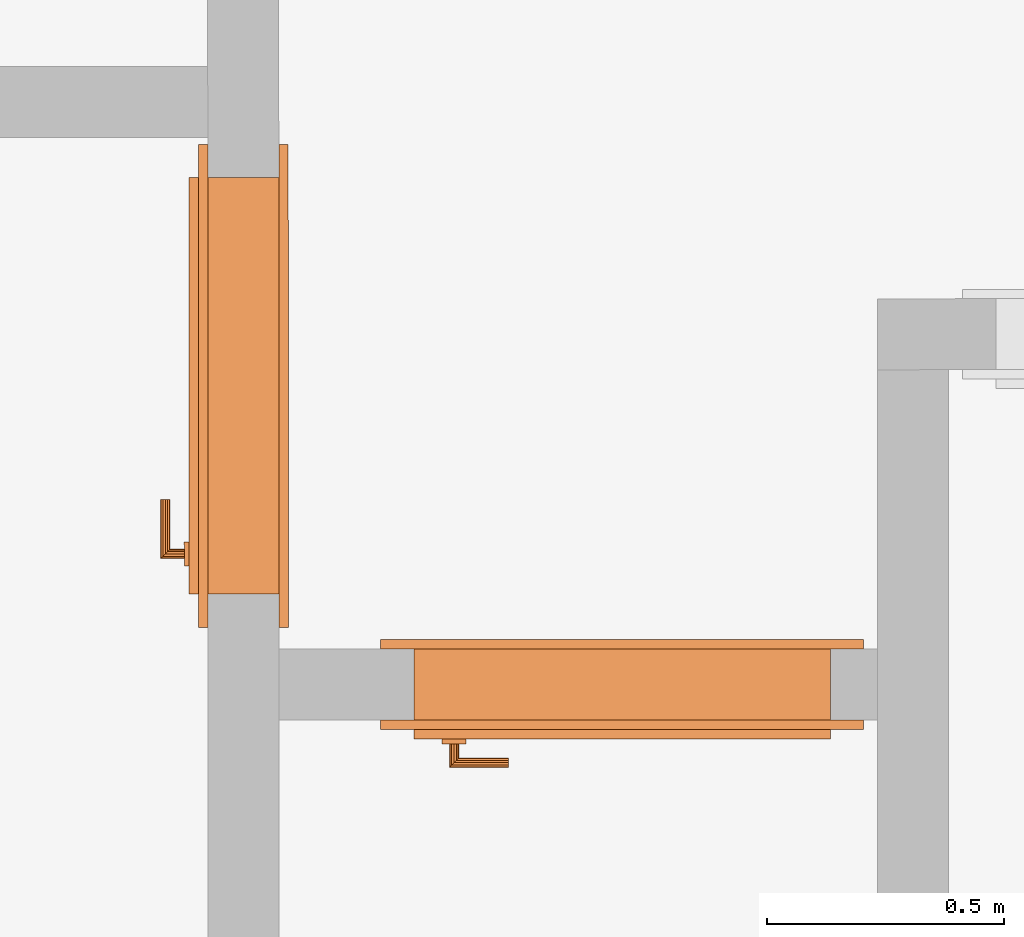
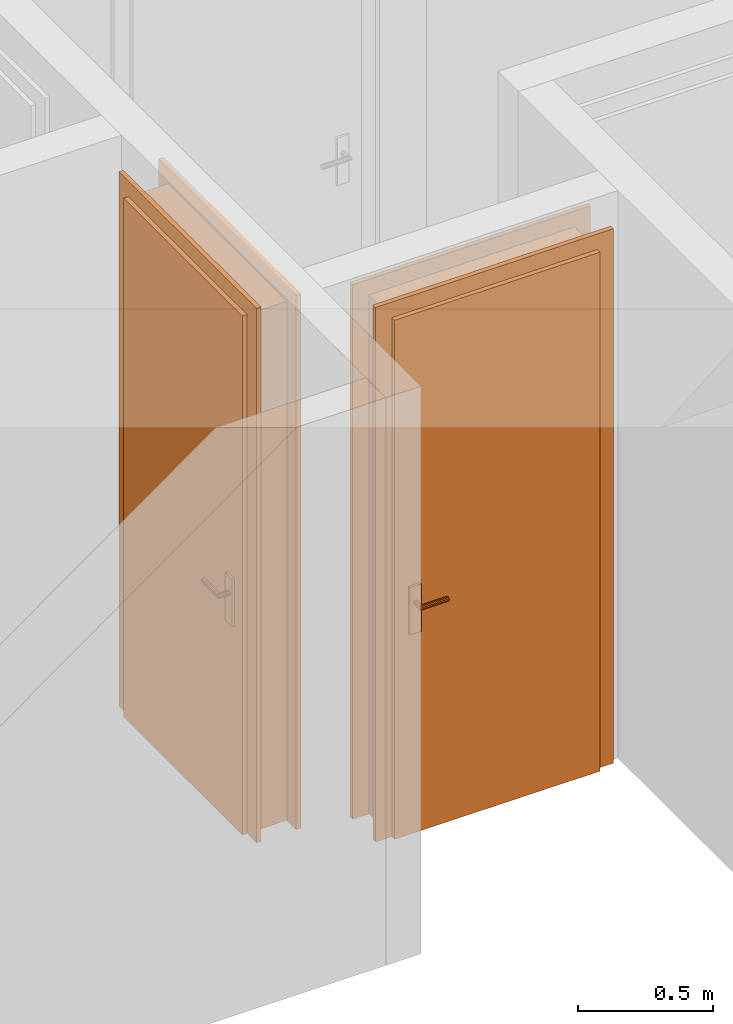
# One storey, part 4 of 8: 2 proxies.
"""IFC2X3 building model written with IfcOpenShell, lengths in metres."""

from ifc_helpers import new_model, entity, si_unit, converted_unit, derived_unit, direction, frame, origin, origin_with_axes, place, context, subcontext, project, spatial, faceted_brep, source, transform, mapped, element, save


model = new_model("IFC2X3")

# Units and contexts
model_context = context("Model", 3, precision=1e-05, world=origin(), true_north=direction((0.772621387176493, -0.634867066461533)))
body_context = subcontext(model_context, "Body", "Model", "MODEL_VIEW")
ifc_project = project(units=[si_unit("LENGTHUNIT", "METRE"), si_unit("AREAUNIT", "SQUARE_METRE"), si_unit("VOLUMEUNIT", "CUBIC_METRE"), si_unit("MASSUNIT", "GRAM", prefix="KILO"), converted_unit("PLANEANGLEUNIT", "DEGREE", entity("IfcPlaneAngleMeasure", 0.0174532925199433), si_unit("PLANEANGLEUNIT", "RADIAN"), dimensions=[0, 0, 0, 0, 0, 0, 0]), derived_unit("THERMALTRANSMITTANCEUNIT", [(si_unit("POWERUNIT", "WATT"), 1), (si_unit("THERMODYNAMICTEMPERATUREUNIT", "KELVIN"), -1), (si_unit("LENGTHUNIT", "METRE"), -2)]), derived_unit("VOLUMETRICFLOWRATEUNIT", [(si_unit("LENGTHUNIT", "METRE"), 3), (converted_unit("TIMEUNIT", "hour", entity("IfcTimeMeasure", 3600.0), si_unit("TIMEUNIT", "SECOND"), dimensions=[0, 0, 1, 0, 0, 0, 0]), -1), (si_unit("LENGTHUNIT", "METRE"), -1)])], contexts=[model_context])

# Site, building, storey
site_placement = place(None, origin())
site = spatial("IfcSite", under=ifc_project, at=site_placement, Name="Modelle auf dem Nullpunkt", CompositionType="ELEMENT")
building_placement = place(site_placement, origin())
building = spatial("IfcBuilding", under=site, at=building_placement, Name="I", CompositionType="ELEMENT")
storey_placement = place(building_placement, origin())
storey = spatial("IfcBuildingStorey", under=building, at=storey_placement, Name="2.OG", CompositionType="ELEMENT", Elevation=0.0)

# Proxies
shared_shape_1 = source(origin_with_axes(), body_context, "Body", "Brep", [
    faceted_brep([(0.950000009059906, 0.19000000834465, 2.35), (0.930000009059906, 0.19000000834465, 2.35), (0.930000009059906, 0.19000000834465, 0.0), (0.950000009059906, 0.19000000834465, 0.0), (0.950000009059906, 0.0, 0.0), (0.930000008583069, 0.0, 0.0), (0.930000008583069, 0.0, 2.35), (0.950000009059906, 0.0, 2.35)], [[[0, 1, 2, 3]], [[4, 5, 6, 7]], [[3, 4, 7, 0]], [[2, 5, 4, 3]], [[1, 6, 5, 2]], [[0, 7, 6, 1]]], orient=[[False], [False], [False], [False], [False], [False]]),
    faceted_brep([(0.950000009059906, 0.19000000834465, 2.42), (0.950000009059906, 0.19000000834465, 0.0), (1.02000000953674, 0.19000000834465, 0.0), (1.02000000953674, 0.19000000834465, 2.42), (0.950000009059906, 0.170000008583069, 0.0), (0.950000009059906, 0.170000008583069, 2.42), (1.02000000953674, 0.170000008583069, 2.42), (1.02000000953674, 0.170000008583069, 0.0)], [[[0, 1, 2, 3]], [[4, 5, 6, 7]], [[1, 0, 5, 4]], [[2, 1, 4, 7]], [[3, 2, 7, 6]], [[0, 3, 6, 5]]], orient=[[False], [False], [False], [False], [False], [False]]),
    faceted_brep([(0.950000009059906, 0.0199999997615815, 2.42), (0.950000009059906, 0.0199999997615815, 0.0), (1.02000001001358, 0.0199999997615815, 0.0), (1.02000001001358, 0.0199999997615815, 2.42), (0.950000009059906, 0.0, 0.0), (0.950000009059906, 0.0, 2.42), (1.02000000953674, 0.0, 2.42), (1.02000000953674, 0.0, 0.0)], [[[0, 1, 2, 3]], [[4, 5, 6, 7]], [[1, 0, 5, 4]], [[2, 1, 4, 7]], [[3, 2, 7, 6]], [[0, 3, 6, 5]]], orient=[[False], [False], [False], [False], [False], [False]]),
    faceted_brep([(0.0900000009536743, 0.19000000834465, 2.35), (0.0700000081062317, 0.19000000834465, 2.35), (0.0700000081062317, 0.19000000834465, 0.0), (0.0900000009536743, 0.19000000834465, 0.0), (0.0900000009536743, 0.0, 0.0), (0.0700000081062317, 0.0, 0.0), (0.0700000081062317, 0.0, 2.35), (0.0900000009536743, 0.0, 2.35)], [[[0, 1, 2, 3]], [[4, 5, 6, 7]], [[3, 4, 7, 0]], [[2, 5, 4, 3]], [[1, 6, 5, 2]], [[0, 7, 6, 1]]], orient=[[False], [False], [False], [False], [False], [False]]),
    faceted_brep([(0.0700000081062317, 0.19000000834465, 2.42), (0.0, 0.19000000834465, 2.42), (0.0, 0.19000000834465, 0.0), (0.0700000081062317, 0.19000000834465, 0.0), (0.0700000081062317, 0.170000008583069, 0.0), (0.0, 0.170000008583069, 0.0), (0.0, 0.170000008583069, 2.42), (0.0700000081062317, 0.170000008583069, 2.42)], [[[0, 1, 2, 3]], [[4, 5, 6, 7]], [[3, 4, 7, 0]], [[2, 5, 4, 3]], [[1, 6, 5, 2]], [[0, 7, 6, 1]]], orient=[[False], [False], [False], [False], [False], [False]]),
    faceted_brep([(0.0700000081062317, 0.0199999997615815, 2.42), (0.0, 0.0199999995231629, 2.42), (0.0, 0.0199999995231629, 0.0), (0.0700000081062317, 0.0199999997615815, 0.0), (0.0700000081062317, 0.0, 0.0), (0.0, 0.0, 0.0), (0.0, 0.0, 2.42), (0.0700000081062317, 0.0, 2.42)], [[[0, 1, 2, 3]], [[4, 5, 6, 7]], [[3, 4, 7, 0]], [[2, 5, 4, 3]], [[1, 6, 5, 2]], [[0, 7, 6, 1]]], orient=[[False], [False], [False], [False], [False], [False]]),
    faceted_brep([(0.930000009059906, 0.19000000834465, 2.35), (0.0900000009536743, 0.19000000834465, 2.35), (0.0900000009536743, 0.19000000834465, 2.33), (0.930000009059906, 0.19000000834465, 2.33), (0.930000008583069, 0.0, 2.33), (0.0900000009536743, 0.0, 2.33), (0.0900000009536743, 0.0, 2.35), (0.930000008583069, 0.0, 2.35)], [[[0, 1, 2, 3]], [[4, 5, 6, 7]], [[3, 4, 7, 0]], [[2, 5, 4, 3]], [[1, 6, 5, 2]], [[0, 7, 6, 1]]], orient=[[False], [False], [False], [False], [False], [False]]),
    faceted_brep([(0.950000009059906, 0.19000000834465, 2.42), (0.0700000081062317, 0.19000000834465, 2.42), (0.0700000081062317, 0.19000000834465, 2.35), (0.950000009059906, 0.19000000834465, 2.35), (0.950000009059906, 0.170000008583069, 2.35), (0.0700000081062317, 0.170000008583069, 2.35), (0.0700000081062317, 0.170000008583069, 2.42), (0.950000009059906, 0.170000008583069, 2.42)], [[[0, 1, 2, 3]], [[4, 5, 6, 7]], [[3, 4, 7, 0]], [[2, 5, 4, 3]], [[1, 6, 5, 2]], [[0, 7, 6, 1]]], orient=[[False], [False], [False], [False], [False], [False]]),
    faceted_brep([(0.950000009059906, 0.0199999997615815, 2.42), (0.0700000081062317, 0.0199999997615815, 2.42), (0.0700000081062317, 0.0199999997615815, 2.35), (0.950000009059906, 0.0199999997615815, 2.35), (0.950000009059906, 0.0, 2.35), (0.0700000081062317, 0.0, 2.35), (0.0700000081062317, 0.0, 2.42), (0.950000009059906, 0.0, 2.42)], [[[0, 1, 2, 3]], [[4, 5, 6, 7]], [[3, 4, 7, 0]], [[2, 5, 4, 3]], [[1, 6, 5, 2]], [[0, 7, 6, 1]]], orient=[[False], [False], [False], [False], [False], [False]]),
    faceted_brep([(0.950000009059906, 0.210000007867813, 2.35), (0.0700000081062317, 0.210000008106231, 2.35), (0.0700000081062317, 0.210000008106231, 0.0), (0.950000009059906, 0.210000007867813, 0.0), (0.950000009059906, 0.170000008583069, 0.0), (0.0700000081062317, 0.170000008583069, 0.0), (0.0700000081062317, 0.170000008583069, 2.35), (0.950000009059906, 0.170000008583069, 2.35)], [[[0, 1, 2, 3]], [[4, 5, 6, 7]], [[3, 4, 7, 0]], [[2, 5, 4, 3]], [[1, 6, 5, 2]], [[0, 7, 6, 1]]], orient=[[False], [False], [False], [False], [False], [False]]),
    faceted_brep([(0.890000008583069, 0.170000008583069, 1.125), (0.840000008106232, 0.170000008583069, 1.125), (0.840000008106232, 0.170000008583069, 0.91), (0.890000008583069, 0.170000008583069, 0.91), (0.890000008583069, 0.160000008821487, 0.91), (0.840000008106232, 0.160000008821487, 0.91), (0.840000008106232, 0.160000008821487, 1.125), (0.890000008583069, 0.160000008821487, 1.125)], [[[0, 1, 2, 3]], [[4, 5, 6, 7]], [[3, 4, 7, 0]], [[2, 5, 4, 3]], [[1, 6, 5, 2]], [[0, 7, 6, 1]]], orient=[[False], [False], [False], [False], [False], [False]]),
    faceted_brep([(0.865000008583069, 0.160000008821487, 1.06), (0.860000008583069, 0.160000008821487, 1.05866025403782), (0.856339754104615, 0.160000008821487, 1.055), (0.855000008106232, 0.160000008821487, 1.05), (0.856339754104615, 0.160000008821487, 1.045), (0.860000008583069, 0.160000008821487, 1.04133974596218), (0.865000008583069, 0.160000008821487, 1.04), (0.870000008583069, 0.160000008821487, 1.04133974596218), (0.873660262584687, 0.160000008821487, 1.045), (0.875000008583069, 0.160000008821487, 1.05), (0.873660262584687, 0.160000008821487, 1.055), (0.870000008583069, 0.160000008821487, 1.05866025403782), (0.870000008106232, 0.115000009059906, 1.05866025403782), (0.865000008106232, 0.120000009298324, 1.06), (0.873660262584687, 0.111339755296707, 1.055), (0.875000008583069, 0.110000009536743, 1.05), (0.873660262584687, 0.111339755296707, 1.045), (0.870000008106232, 0.115000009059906, 1.04133974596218), (0.865000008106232, 0.120000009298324, 1.04), (0.860000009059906, 0.125000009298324, 1.04133974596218), (0.856339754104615, 0.128660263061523, 1.045), (0.855000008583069, 0.130000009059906, 1.05), (0.856339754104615, 0.128660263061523, 1.055), (0.860000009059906, 0.125000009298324, 1.05866025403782), (0.750000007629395, 0.120000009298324, 1.06), (0.750000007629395, 0.115000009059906, 1.05866025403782), (0.750000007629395, 0.111339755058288, 1.055), (0.750000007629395, 0.110000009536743, 1.05), (0.750000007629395, 0.111339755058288, 1.045), (0.750000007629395, 0.115000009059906, 1.04133974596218), (0.750000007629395, 0.120000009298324, 1.04), (0.750000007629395, 0.125000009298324, 1.04133974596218), (0.750000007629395, 0.128660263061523, 1.045), (0.750000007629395, 0.130000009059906, 1.05), (0.750000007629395, 0.128660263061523, 1.055), (0.750000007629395, 0.125000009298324, 1.05866025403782)], [[[0, 1, 2, 3, 4, 5, 6, 7, 8, 9, 10, 11]], [[0, 11, 12, 13]], [[11, 10, 14, 12]], [[10, 9, 15, 14]], [[9, 8, 16, 15]], [[8, 7, 17, 16]], [[7, 6, 18, 17]], [[6, 5, 19, 18]], [[5, 4, 20, 19]], [[4, 3, 21, 20]], [[3, 2, 22, 21]], [[2, 1, 23, 22]], [[1, 0, 13, 23]], [[24, 25, 26, 27, 28, 29, 30, 31, 32, 33, 34, 35]], [[13, 12, 25, 24]], [[12, 14, 26, 25]], [[14, 15, 27, 26]], [[15, 16, 28, 27]], [[16, 17, 29, 28]], [[17, 18, 30, 29]], [[18, 19, 31, 30]], [[19, 20, 32, 31]], [[20, 21, 33, 32]], [[21, 22, 34, 33]], [[22, 23, 35, 34]], [[23, 13, 24, 35]]], orient=[[False], [False], [False], [False], [False], [False], [False], [False], [False], [False], [False], [False], [False], [False], [False], [False], [False], [False], [False], [False], [False], [False], [False], [False], [False], [False]]),
    faceted_brep([(0.890000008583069, 0.210000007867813, 1.125), (0.890000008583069, 0.210000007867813, 0.91), (0.840000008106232, 0.210000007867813, 0.91), (0.840000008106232, 0.210000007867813, 1.125), (0.890000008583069, 0.220000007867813, 0.91), (0.890000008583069, 0.220000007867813, 1.125), (0.840000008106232, 0.220000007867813, 1.125), (0.840000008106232, 0.220000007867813, 0.91)], [[[0, 1, 2, 3]], [[4, 5, 6, 7]], [[1, 0, 5, 4]], [[2, 1, 4, 7]], [[3, 2, 7, 6]], [[0, 3, 6, 5]]], orient=[[False], [False], [False], [False], [False], [False]]),
    faceted_brep([(0.865000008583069, 0.220000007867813, 1.06), (0.870000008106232, 0.220000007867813, 1.05866025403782), (0.873660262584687, 0.220000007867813, 1.055), (0.875000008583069, 0.220000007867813, 1.05), (0.873660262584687, 0.220000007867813, 1.045), (0.870000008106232, 0.220000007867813, 1.04133974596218), (0.865000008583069, 0.220000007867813, 1.04), (0.860000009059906, 0.220000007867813, 1.04133974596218), (0.856339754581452, 0.220000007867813, 1.045), (0.855000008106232, 0.220000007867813, 1.05), (0.856339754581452, 0.220000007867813, 1.055), (0.860000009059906, 0.220000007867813, 1.05866025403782), (0.865000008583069, 0.260000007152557, 1.06), (0.870000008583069, 0.265000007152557, 1.05866025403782), (0.873660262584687, 0.268660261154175, 1.055), (0.875000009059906, 0.270000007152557, 1.05), (0.873660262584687, 0.268660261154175, 1.045), (0.870000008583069, 0.265000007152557, 1.04133974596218), (0.865000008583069, 0.260000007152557, 1.04), (0.860000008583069, 0.255000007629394, 1.04133974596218), (0.856339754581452, 0.251339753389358, 1.045), (0.855000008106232, 0.250000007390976, 1.05), (0.856339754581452, 0.251339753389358, 1.055), (0.860000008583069, 0.255000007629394, 1.05866025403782), (0.750000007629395, 0.260000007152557, 1.06), (0.750000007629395, 0.255000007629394, 1.05866025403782), (0.750000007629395, 0.251339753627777, 1.055), (0.750000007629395, 0.250000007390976, 1.05), (0.750000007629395, 0.251339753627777, 1.045), (0.750000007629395, 0.255000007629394, 1.04133974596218), (0.750000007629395, 0.260000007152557, 1.04), (0.750000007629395, 0.265000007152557, 1.04133974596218), (0.750000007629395, 0.268660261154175, 1.045), (0.750000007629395, 0.270000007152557, 1.05), (0.750000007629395, 0.268660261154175, 1.055), (0.750000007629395, 0.265000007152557, 1.05866025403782)], [[[0, 1, 2, 3, 4, 5, 6, 7, 8, 9, 10, 11]], [[0, 12, 13, 1]], [[1, 13, 14, 2]], [[2, 14, 15, 3]], [[3, 15, 16, 4]], [[4, 16, 17, 5]], [[5, 17, 18, 6]], [[6, 18, 19, 7]], [[7, 19, 20, 8]], [[8, 20, 21, 9]], [[9, 21, 22, 10]], [[10, 22, 23, 11]], [[11, 23, 12, 0]], [[24, 25, 26, 27, 28, 29, 30, 31, 32, 33, 34, 35]], [[12, 24, 35, 13]], [[13, 35, 34, 14]], [[14, 34, 33, 15]], [[15, 33, 32, 16]], [[16, 32, 31, 17]], [[17, 31, 30, 18]], [[18, 30, 29, 19]], [[19, 29, 28, 20]], [[20, 28, 27, 21]], [[21, 27, 26, 22]], [[22, 26, 25, 23]], [[23, 25, 24, 12]]], orient=[[False], [False], [False], [False], [False], [False], [False], [False], [False], [False], [False], [False], [False], [False], [False], [False], [False], [False], [False], [False], [False], [False], [False], [False], [False], [False]]),
])
proxy_1_placement = place(storey_placement, frame((33.5238810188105, -3.33191685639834, 441.67), z_axis=(0.0, 0.0, 1.0), x_axis=(-0.999999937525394, -0.000353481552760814, 0.0)))
element("IfcBuildingElementProxy", 1, at=proxy_1_placement, inside=storey, Name="1flg Weiß UZ außen", context=body_context, shape_type="MappedRepresentation", body=[
    mapped(shared_shape_1, transform((0.0, 0.0, 0.0), x_axis=(1.0, 0.0, 0.0), y_axis=(0.0, 1.0, 0.0), z_axis=(0.0, 0.0, 1.0), scale=1.0)),
])
shared_shape_2 = source(origin_with_axes(), body_context, "Body", "Brep", [
    faceted_brep([(0.0700000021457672, 0.190000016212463, 2.35), (0.0700000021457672, 0.190000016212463, 0.0), (0.0900000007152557, 0.190000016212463, 0.0), (0.0900000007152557, 0.190000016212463, 2.35), (0.0700000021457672, 0.0, 0.0), (0.0700000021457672, 0.0, 2.35), (0.0900000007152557, 0.0, 2.35), (0.0900000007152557, 0.0, 0.0)], [[[0, 1, 2, 3]], [[4, 5, 6, 7]], [[1, 0, 5, 4]], [[2, 1, 4, 7]], [[3, 2, 7, 6]], [[0, 3, 6, 5]]], orient=[[False], [False], [False], [False], [False], [False]]),
    faceted_brep([(0.0700000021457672, 0.190000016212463, 2.42), (0.0, 0.1900000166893, 2.42), (0.0, 0.1900000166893, 0.0), (0.0700000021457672, 0.190000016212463, 0.0), (0.0700000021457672, 0.170000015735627, 0.0), (0.0, 0.170000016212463, 0.0), (0.0, 0.170000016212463, 2.42), (0.0700000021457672, 0.170000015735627, 2.42)], [[[0, 1, 2, 3]], [[4, 5, 6, 7]], [[3, 4, 7, 0]], [[2, 5, 4, 3]], [[1, 6, 5, 2]], [[0, 7, 6, 1]]], orient=[[False], [False], [False], [False], [False], [False]]),
    faceted_brep([(0.0700000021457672, 0.0200000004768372, 2.42), (0.0, 0.0200000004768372, 2.42), (0.0, 0.0200000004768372, 0.0), (0.0700000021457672, 0.0200000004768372, 0.0), (0.0700000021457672, 0.0, 0.0), (0.0, 0.0, 0.0), (0.0, 0.0, 2.42), (0.0700000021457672, 0.0, 2.42)], [[[0, 1, 2, 3]], [[4, 5, 6, 7]], [[3, 4, 7, 0]], [[2, 5, 4, 3]], [[1, 6, 5, 2]], [[0, 7, 6, 1]]], orient=[[False], [False], [False], [False], [False], [False]]),
    faceted_brep([(0.93000001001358, 0.1900000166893, 2.35), (0.93000001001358, 0.1900000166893, 0.0), (0.950000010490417, 0.1900000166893, 0.0), (0.950000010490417, 0.1900000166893, 2.35), (0.93000001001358, 0.0, 0.0), (0.93000001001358, 0.0, 2.35), (0.950000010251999, 0.0, 2.35), (0.950000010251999, 0.0, 0.0)], [[[0, 1, 2, 3]], [[4, 5, 6, 7]], [[1, 0, 5, 4]], [[2, 1, 4, 7]], [[3, 2, 7, 6]], [[0, 3, 6, 5]]], orient=[[False], [False], [False], [False], [False], [False]]),
    faceted_brep([(0.950000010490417, 0.1900000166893, 2.42), (0.950000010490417, 0.1900000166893, 0.0), (1.02000001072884, 0.190000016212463, 0.0), (1.02000001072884, 0.190000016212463, 2.42), (0.950000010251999, 0.170000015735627, 0.0), (0.950000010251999, 0.170000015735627, 2.42), (1.02000001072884, 0.170000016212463, 2.42), (1.02000001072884, 0.170000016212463, 0.0)], [[[0, 1, 2, 3]], [[4, 5, 6, 7]], [[1, 0, 5, 4]], [[2, 1, 4, 7]], [[3, 2, 7, 6]], [[0, 3, 6, 5]]], orient=[[False], [False], [False], [False], [False], [False]]),
    faceted_brep([(0.950000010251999, 0.0200000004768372, 2.42), (0.950000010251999, 0.0200000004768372, 0.0), (1.02000001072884, 0.0200000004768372, 0.0), (1.02000001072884, 0.0200000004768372, 2.42), (0.950000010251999, 0.0, 0.0), (0.950000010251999, 0.0, 2.42), (1.02000001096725, 0.0, 2.42), (1.02000001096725, 0.0, 0.0)], [[[0, 1, 2, 3]], [[4, 5, 6, 7]], [[1, 0, 5, 4]], [[2, 1, 4, 7]], [[3, 2, 7, 6]], [[0, 3, 6, 5]]], orient=[[False], [False], [False], [False], [False], [False]]),
    faceted_brep([(0.0900000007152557, 0.190000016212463, 2.35), (0.0900000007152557, 0.190000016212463, 2.33), (0.93000001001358, 0.1900000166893, 2.33), (0.93000001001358, 0.1900000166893, 2.35), (0.0900000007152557, 0.0, 2.33), (0.0900000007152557, 0.0, 2.35), (0.93000001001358, 0.0, 2.35), (0.93000001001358, 0.0, 2.33)], [[[0, 1, 2, 3]], [[4, 5, 6, 7]], [[1, 0, 5, 4]], [[2, 1, 4, 7]], [[3, 2, 7, 6]], [[0, 3, 6, 5]]], orient=[[False], [False], [False], [False], [False], [False]]),
    faceted_brep([(0.0700000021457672, 0.190000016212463, 2.42), (0.0700000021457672, 0.190000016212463, 2.35), (0.950000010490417, 0.1900000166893, 2.35), (0.950000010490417, 0.1900000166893, 2.42), (0.0700000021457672, 0.170000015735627, 2.35), (0.0700000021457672, 0.170000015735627, 2.42), (0.950000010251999, 0.170000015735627, 2.42), (0.950000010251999, 0.170000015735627, 2.35)], [[[0, 1, 2, 3]], [[4, 5, 6, 7]], [[1, 0, 5, 4]], [[2, 1, 4, 7]], [[3, 2, 7, 6]], [[0, 3, 6, 5]]], orient=[[False], [False], [False], [False], [False], [False]]),
    faceted_brep([(0.0700000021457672, 0.0200000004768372, 2.42), (0.0700000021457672, 0.0200000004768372, 2.35), (0.950000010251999, 0.0200000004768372, 2.35), (0.950000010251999, 0.0200000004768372, 2.42), (0.0700000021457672, 0.0, 2.35), (0.0700000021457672, 0.0, 2.42), (0.950000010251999, 0.0, 2.42), (0.950000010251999, 0.0, 2.35)], [[[0, 1, 2, 3]], [[4, 5, 6, 7]], [[1, 0, 5, 4]], [[2, 1, 4, 7]], [[3, 2, 7, 6]], [[0, 3, 6, 5]]], orient=[[False], [False], [False], [False], [False], [False]]),
    faceted_brep([(0.0700000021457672, 0.210000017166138, 2.35), (0.0700000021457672, 0.210000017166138, 0.0), (0.950000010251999, 0.210000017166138, 0.0), (0.950000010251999, 0.210000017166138, 2.35), (0.0700000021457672, 0.170000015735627, 0.0), (0.0700000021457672, 0.170000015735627, 2.35), (0.950000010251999, 0.170000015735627, 2.35), (0.950000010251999, 0.170000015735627, 0.0)], [[[0, 1, 2, 3]], [[4, 5, 6, 7]], [[1, 0, 5, 4]], [[2, 1, 4, 7]], [[3, 2, 7, 6]], [[0, 3, 6, 5]]], orient=[[False], [False], [False], [False], [False], [False]]),
    faceted_brep([(0.130000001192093, 0.170000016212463, 1.125), (0.130000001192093, 0.170000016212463, 0.91), (0.180000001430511, 0.170000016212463, 0.91), (0.180000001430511, 0.170000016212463, 1.125), (0.130000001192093, 0.16000001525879, 0.91), (0.130000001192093, 0.16000001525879, 1.125), (0.180000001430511, 0.160000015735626, 1.125), (0.180000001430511, 0.160000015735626, 0.91)], [[[0, 1, 2, 3]], [[4, 5, 6, 7]], [[1, 0, 5, 4]], [[2, 1, 4, 7]], [[3, 2, 7, 6]], [[0, 3, 6, 5]]], orient=[[False], [False], [False], [False], [False], [False]]),
    faceted_brep([(0.155000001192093, 0.160000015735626, 1.06), (0.150000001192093, 0.16000001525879, 1.05866025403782), (0.146339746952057, 0.160000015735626, 1.055), (0.145000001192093, 0.160000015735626, 1.05), (0.146339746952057, 0.160000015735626, 1.045), (0.150000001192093, 0.16000001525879, 1.04133974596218), (0.155000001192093, 0.160000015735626, 1.04), (0.160000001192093, 0.160000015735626, 1.04133974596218), (0.163660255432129, 0.160000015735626, 1.045), (0.165000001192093, 0.160000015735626, 1.05), (0.163660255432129, 0.160000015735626, 1.055), (0.160000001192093, 0.160000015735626, 1.05866025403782), (0.155000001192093, 0.120000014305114, 1.06), (0.150000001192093, 0.115000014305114, 1.05866025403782), (0.146339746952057, 0.111339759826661, 1.055), (0.145000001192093, 0.110000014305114, 1.05), (0.146339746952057, 0.111339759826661, 1.045), (0.150000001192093, 0.115000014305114, 1.04133974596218), (0.155000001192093, 0.120000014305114, 1.04), (0.160000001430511, 0.125000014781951, 1.04133974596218), (0.163660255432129, 0.12866026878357, 1.045), (0.165000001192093, 0.130000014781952, 1.05), (0.163660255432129, 0.12866026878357, 1.055), (0.160000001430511, 0.125000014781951, 1.05866025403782), (0.270000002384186, 0.120000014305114, 1.06), (0.270000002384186, 0.125000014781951, 1.05866025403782), (0.270000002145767, 0.12866026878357, 1.055), (0.270000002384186, 0.130000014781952, 1.05), (0.270000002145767, 0.12866026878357, 1.045), (0.270000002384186, 0.125000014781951, 1.04133974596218), (0.270000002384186, 0.120000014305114, 1.04), (0.270000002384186, 0.115000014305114, 1.04133974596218), (0.270000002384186, 0.111339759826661, 1.045), (0.270000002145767, 0.110000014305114, 1.05), (0.270000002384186, 0.111339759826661, 1.055), (0.270000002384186, 0.115000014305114, 1.05866025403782)], [[[0, 1, 2, 3, 4, 5, 6, 7, 8, 9, 10, 11]], [[0, 12, 13, 1]], [[1, 13, 14, 2]], [[2, 14, 15, 3]], [[3, 15, 16, 4]], [[4, 16, 17, 5]], [[5, 17, 18, 6]], [[6, 18, 19, 7]], [[7, 19, 20, 8]], [[8, 20, 21, 9]], [[9, 21, 22, 10]], [[10, 22, 23, 11]], [[11, 23, 12, 0]], [[24, 25, 26, 27, 28, 29, 30, 31, 32, 33, 34, 35]], [[12, 24, 35, 13]], [[13, 35, 34, 14]], [[14, 34, 33, 15]], [[15, 33, 32, 16]], [[16, 32, 31, 17]], [[17, 31, 30, 18]], [[18, 30, 29, 19]], [[19, 29, 28, 20]], [[20, 28, 27, 21]], [[21, 27, 26, 22]], [[22, 26, 25, 23]], [[23, 25, 24, 12]]], orient=[[False], [False], [False], [False], [False], [False], [False], [False], [False], [False], [False], [False], [False], [False], [False], [False], [False], [False], [False], [False], [False], [False], [False], [False], [False], [False]]),
    faceted_brep([(0.130000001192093, 0.210000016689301, 1.125), (0.180000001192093, 0.210000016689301, 1.125), (0.180000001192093, 0.210000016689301, 0.91), (0.130000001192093, 0.210000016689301, 0.91), (0.130000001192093, 0.220000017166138, 0.91), (0.180000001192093, 0.220000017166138, 0.91), (0.180000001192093, 0.220000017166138, 1.125), (0.130000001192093, 0.220000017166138, 1.125)], [[[0, 1, 2, 3]], [[4, 5, 6, 7]], [[3, 4, 7, 0]], [[2, 5, 4, 3]], [[1, 6, 5, 2]], [[0, 7, 6, 1]]], orient=[[False], [False], [False], [False], [False], [False]]),
    faceted_brep([(0.155000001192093, 0.220000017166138, 1.06), (0.160000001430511, 0.220000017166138, 1.05866025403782), (0.163660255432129, 0.220000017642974, 1.055), (0.165000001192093, 0.220000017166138, 1.05), (0.163660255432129, 0.220000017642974, 1.045), (0.160000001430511, 0.220000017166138, 1.04133974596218), (0.155000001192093, 0.220000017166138, 1.04), (0.150000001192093, 0.220000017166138, 1.04133974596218), (0.146339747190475, 0.220000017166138, 1.045), (0.145000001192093, 0.220000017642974, 1.05), (0.146339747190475, 0.220000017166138, 1.055), (0.150000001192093, 0.220000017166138, 1.05866025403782), (0.150000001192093, 0.26500001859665, 1.05866025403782), (0.155000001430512, 0.26000001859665, 1.06), (0.146339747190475, 0.268660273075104, 1.055), (0.145000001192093, 0.270000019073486, 1.05), (0.146339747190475, 0.268660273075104, 1.045), (0.150000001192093, 0.26500001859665, 1.04133974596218), (0.155000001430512, 0.26000001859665, 1.04), (0.160000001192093, 0.25500001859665, 1.04133974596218), (0.163660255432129, 0.251339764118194, 1.045), (0.165000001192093, 0.250000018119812, 1.05), (0.163660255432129, 0.251339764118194, 1.055), (0.160000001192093, 0.25500001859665, 1.05866025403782), (0.270000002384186, 0.26000001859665, 1.06), (0.270000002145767, 0.26500001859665, 1.05866025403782), (0.270000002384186, 0.268660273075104, 1.055), (0.270000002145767, 0.270000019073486, 1.05), (0.270000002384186, 0.268660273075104, 1.045), (0.270000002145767, 0.26500001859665, 1.04133974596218), (0.270000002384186, 0.26000001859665, 1.04), (0.270000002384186, 0.25500001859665, 1.04133974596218), (0.270000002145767, 0.251339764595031, 1.045), (0.270000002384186, 0.250000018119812, 1.05), (0.270000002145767, 0.251339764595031, 1.055), (0.270000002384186, 0.25500001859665, 1.05866025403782)], [[[0, 1, 2, 3, 4, 5, 6, 7, 8, 9, 10, 11]], [[0, 11, 12, 13]], [[11, 10, 14, 12]], [[10, 9, 15, 14]], [[9, 8, 16, 15]], [[8, 7, 17, 16]], [[7, 6, 18, 17]], [[6, 5, 19, 18]], [[5, 4, 20, 19]], [[4, 3, 21, 20]], [[3, 2, 22, 21]], [[2, 1, 23, 22]], [[1, 0, 13, 23]], [[24, 25, 26, 27, 28, 29, 30, 31, 32, 33, 34, 35]], [[13, 12, 25, 24]], [[12, 14, 26, 25]], [[14, 15, 27, 26]], [[15, 16, 28, 27]], [[16, 17, 29, 28]], [[17, 18, 30, 29]], [[18, 19, 31, 30]], [[19, 20, 32, 31]], [[20, 21, 33, 32]], [[21, 22, 34, 33]], [[22, 23, 35, 34]], [[23, 13, 24, 35]]], orient=[[False], [False], [False], [False], [False], [False], [False], [False], [False], [False], [False], [False], [False], [False], [False], [False], [False], [False], [False], [False], [False], [False], [False], [False], [False], [False]]),
])
proxy_2_placement = place(storey_placement, frame((32.3088717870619, -3.30606763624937, 441.67), z_axis=(0.0, 0.0, 1.0), x_axis=(-0.000353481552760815, 0.999999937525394, 0.0)))
element("IfcBuildingElementProxy", 2, at=proxy_2_placement, inside=storey, Name="1flg Weiß UZ außen", context=body_context, shape_type="MappedRepresentation", body=[
    mapped(shared_shape_2, transform((0.0, 0.0, 0.0), x_axis=(1.0, 0.0, 0.0), y_axis=(0.0, 1.0, 0.0), z_axis=(0.0, 0.0, 1.0), scale=1.0)),
])

save(model, "model.ifc")
